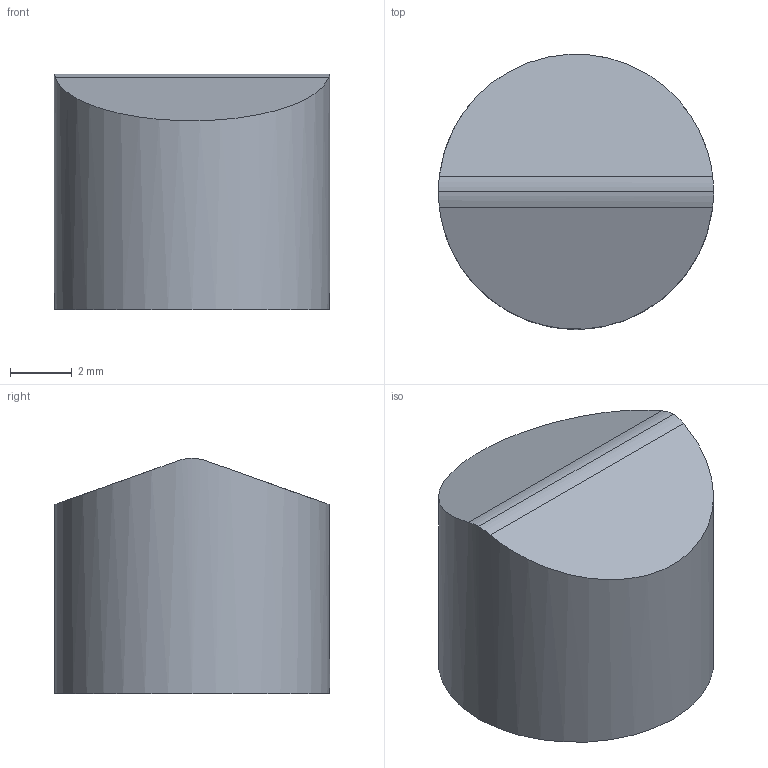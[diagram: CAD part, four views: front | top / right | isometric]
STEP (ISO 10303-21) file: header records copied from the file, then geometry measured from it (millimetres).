
FILE_DESCRIPTION(/* description */ ('Alibre Inc.'),/* implementation_level */ '2;1');
FILE_NAME(/* name */ 'export0',/* time_stamp */ '2011-07-18T12:59:59-04:00',/* author */ (''),/* organization */ (''),/* preprocessor_version */ 'ST-DEVELOPER v12',/* originating_system */ 'Alibre',/* authorisation */ '');
FILE_SCHEMA (('AUTOMOTIVE_DESIGN'));
Length unit declared in the file: centimetre
Bounding box: 8.89 x 8.89 x 7.62 mm (x, y, z)
Volume: 435.7 mm3; surface area: 314.4 mm2
Topology: 1 solids, 1 shells, 6 faces, 11 edges, 7 vertices
Faces by surface type: plane 3, bspline 2, cylinder 1
Full cylindrical faces by diameter (mm): 8.89 x1
Entity records: 181 total; most frequent: CARTESIAN_POINT 61, ORIENTED_EDGE 20, DIRECTION 14, EDGE_CURVE 10, VERTEX_POINT 7, EDGE_LOOP 7, FACE_BOUND 7, AXIS2_PLACEMENT_3D 7
